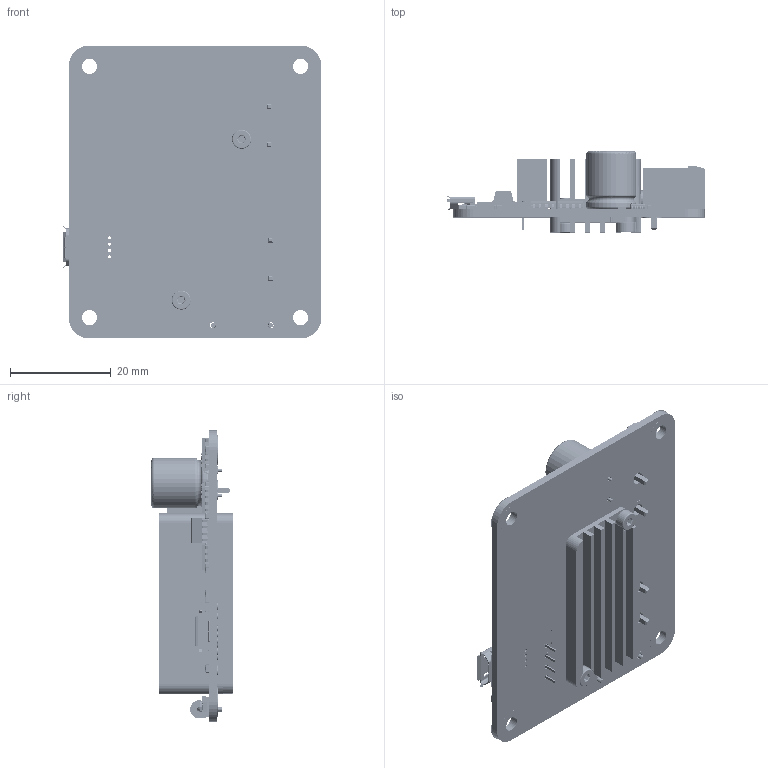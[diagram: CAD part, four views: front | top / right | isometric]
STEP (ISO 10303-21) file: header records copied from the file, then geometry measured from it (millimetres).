
FILE_DESCRIPTION (( 'STEP AP214' ), '1' );
FILE_NAME ('MOTORCTL.step', '2014-05-25T05:11:36', ( 'martinm' ), ( 'Yoctopuce' ), 'SwSTEP 2.0', 'SolidWorks 2008', '' );
FILE_SCHEMA (( 'AUTOMOTIVE_DESIGN' ));
Length unit declared in the file: millimetre
Products named in the file (43): C0603C106M9PACTU; APSG200ELL681MJB5S_Défaut; yoctomotorctrl2_Défaut; MOTORCTL; ADS1115IDGST; yoctomotorctrl2OutLine_Défaut; MOCD217M; RK73H1JTTD1242F; CRCW06033K00FKEA; 301-4.7K-RC; RK73H1JTTD4702F; CRCW0603100KJNEA; GRM188R61C225KE15D; GRM21BR61E225KA12L; CRCW0603100RJNEB; CRCW06031M00JNEB; MCP1703T-3302E_CB; RK73H1JTTD1501F; GRM188R60J105KA01D; WSLP0603R1000FEA; CRCW060310K0JNEB; C0805C105K4RACTU; 691_313_410_002_Défaut; GRM188R71E104KA01D; Si8600AC-B-IS; P6KE6V8CA_Défaut; C2012X7R2E472KT5; TLSM1060(T18); TC4426AVOA_Défaut; BAT54C; 144033; radiateur_bottom_Défaut; radiateur_Défaut; FAN4010IL6X_F113; ROE-0505S; ASMT-TBBM-NP902; ZX62-B-5PA(11); PIC24FJ64GB002-I_ML; SIA418DJ-T1-GE3; KMR211NGLFS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
Assembly tree (103 placements, depth 3):
  MOTORCTL
    radiateur_Défaut
    144033  x2
    yoctomotorctrl2_Défaut
      C0805C105K4RACTU  x2
      APSG200ELL681MJB5S_Défaut
      GRM188R71E104KA01D  x15
      301-4.7K-RC  x13
      Si8600AC-B-IS  x3
      SIA421DJ-T1-GE3  x8
      SIA418DJ-T1-GE3  x8
      GRM188R60J105KA01D  x2
      RK73H1JTTD4702F  x5
      KMR211NGLFS
      CRCW0603100RJNEB
      CRCW06033K00FKEA  x6
      RK73H1JTTD1501F
      691_313_410_002_Défaut  x2
      BAT54C
      MOCD217M
      TC4426AVOA_Défaut  x2
      TLSM1060(T18)
      P6KE6V8CA_Défaut
      RK73H1JTTD1242F  x2
      ACS712ELCTR-30A_Défaut
      GRM188R61C225KE15D
      MCP1703T-3302E_CB  x2
      CRCW06031M00JNEB
      CRCW060310K0JNEB
      C2012X7R2E472KT5  x2
      FAN4010IL6X_F113
      CRCW0603100KJNEA  x2
      ASMT-TBBM-NP902
      PIC24FJ64GB002-I_ML
      GRM21BR61E225KA12L  x2
      ROE-0505S
      WSLP0603R1000FEA
      C0603C106M9PACTU
      MCP9804T-E_MC
      ADS1115IDGST
      yoctomotorctrl2OutLine_Défaut
      ZX62-B-5PA(11)
    radiateur_bottom_Défaut
Bounding box: 51.48 x 16.14 x 58.25 mm (x, y, z)
Volume: 12779.2 mm3; surface area: 19407.2 mm2
Topology: 117 solids, 117 shells, 13886 faces, 36547 edges, 23844 vertices
Faces by surface type: plane 9183, cylinder 2240, bspline 2224, sphere 200, torus 35, cone 4
Entity records: 359319 total; most frequent: CARTESIAN_POINT 102379, ORIENTED_EDGE 39496, DIRECTION 33747, EDGE_CURVE 19748, VECTOR 15023, LINE 15023, VERTEX_POINT 13017, AXIS2_PLACEMENT_3D 9362
